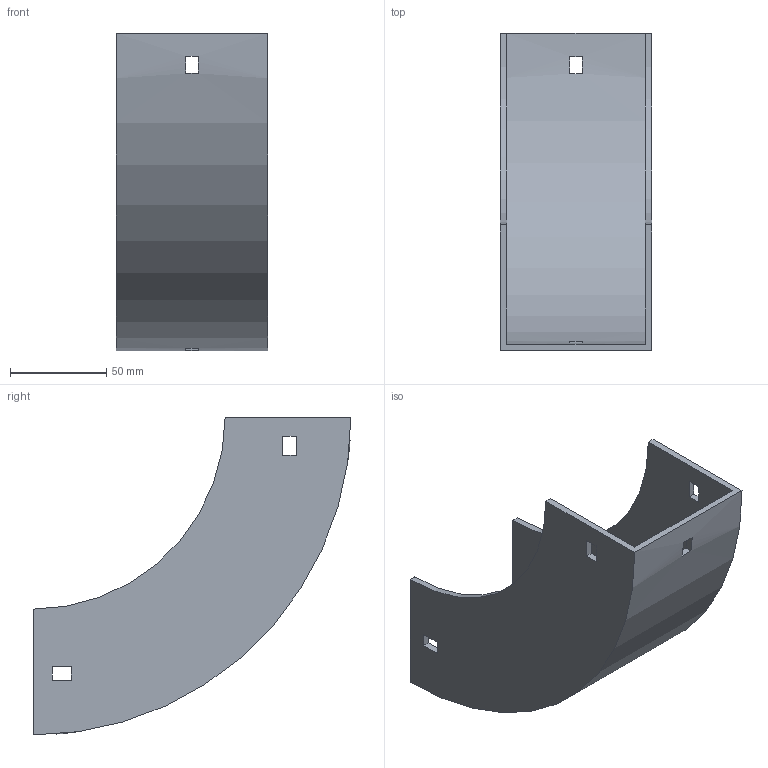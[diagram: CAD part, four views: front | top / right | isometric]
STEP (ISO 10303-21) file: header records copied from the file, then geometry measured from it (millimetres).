
FILE_DESCRIPTION (( 'STEP AP214' ), '1' );
FILE_NAME ('30B1H075.step', '2025-02-21T09:49:58', ( '' ), ( '' ), 'SwSTEP 2.0', 'SolidWorks 2023', '' );
FILE_SCHEMA (( 'AUTOMOTIVE_DESIGN' ));
Length unit declared in the file: millimetre
Products named in the file (1): 30B1H075
Bounding box: 79 x 165.5 x 165.5 mm (x, y, z)
Volume: 159035.2 mm3; surface area: 94111.2 mm2
Topology: 1 solids, 1 shells, 34 faces, 96 edges, 64 vertices
Faces by surface type: plane 30, cylinder 4
Entity records: 1143 total; most frequent: CARTESIAN_POINT 195, ORIENTED_EDGE 192, DIRECTION 182, EDGE_CURVE 96, VECTOR 80, LINE 80, VERTEX_POINT 64, AXIS2_PLACEMENT_3D 51
